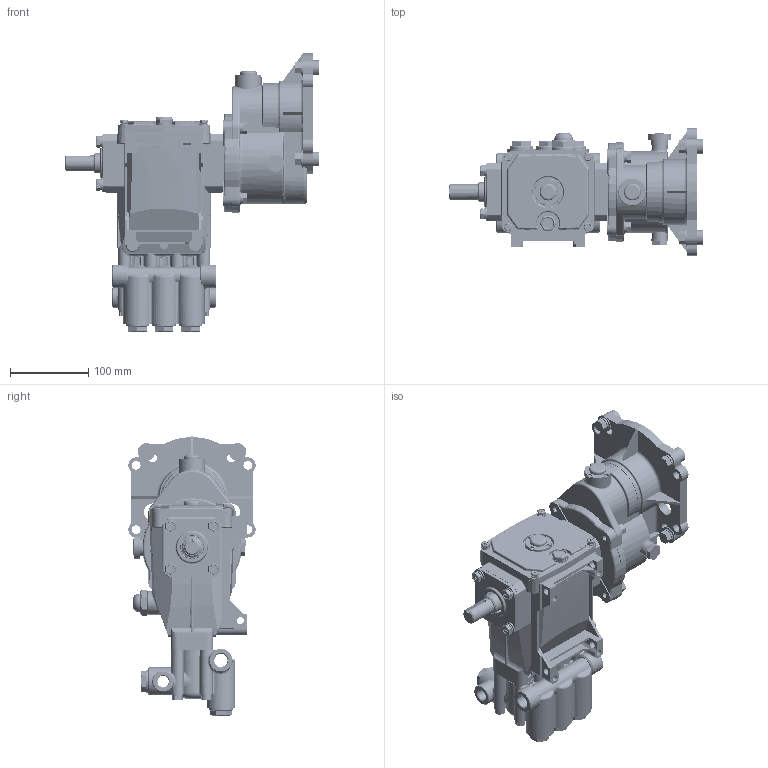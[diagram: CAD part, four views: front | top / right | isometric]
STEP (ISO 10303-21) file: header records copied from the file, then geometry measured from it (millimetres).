
FILE_DESCRIPTION (( 'STEP AP214' ), '1' );
FILE_NAME ('5CP 5140 G1 .STEP', '2013-01-21T11:12:58', ( '' ), ( '' ), 'SwSTEP 2.0', 'SolidWorks 2012', '' );
FILE_SCHEMA (( 'AUTOMOTIVE_DESIGN' ));
Length unit declared in the file: millimetre
Products named in the file (1): 5CP 5140 G1 
Bounding box: 325.67 x 163.05 x 357.43 mm (x, y, z)
Volume: 2811320.9 mm3; surface area: 555250.4 mm2
Topology: 1 solids, 46 shells, 6919 faces, 18879 edges, 12198 vertices
Faces by surface type: plane 4135, cylinder 1445, bspline 655, torus 420, cone 224, sphere 40
Entity records: 306745 total; most frequent: CARTESIAN_POINT 93331, ORIENTED_EDGE 37594, DIRECTION 32262, EDGE_CURVE 18797, VERTEX_POINT 12183, AXIS2_PLACEMENT_3D 11284, LINE 9694, VECTOR 9694
